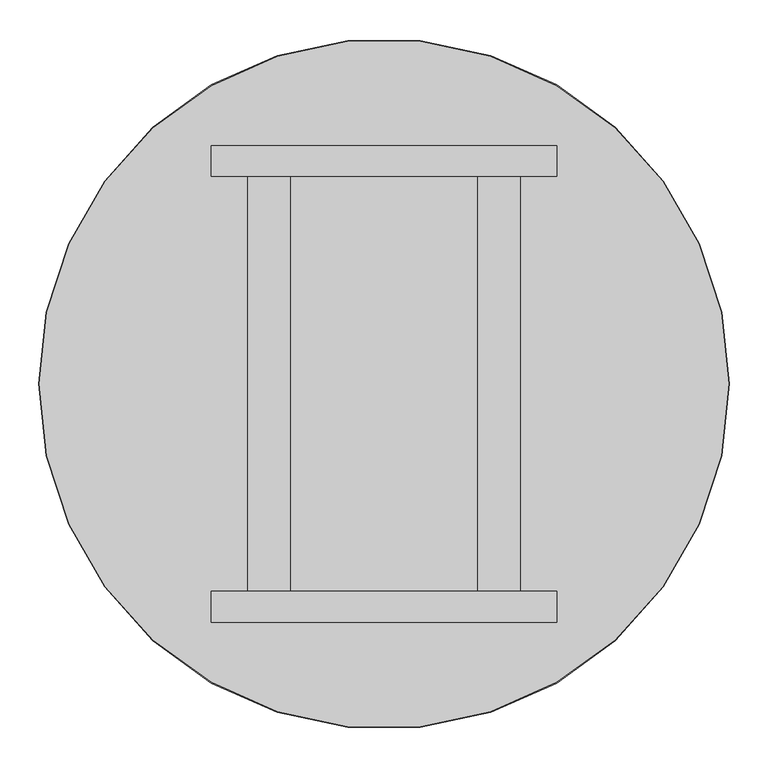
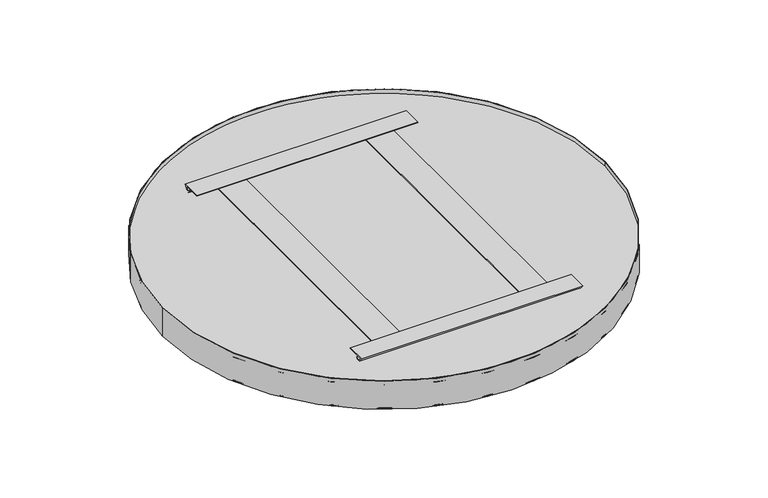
"""IFC4 building model written with IfcOpenShell, lengths in millimetres: proxy geometry, durlum_TOMEO-R-active : durlum_TOMEO-R-ACTIVE 900."""

from ifc_helpers import new_model, si_unit, point, frame, origin, origin_with_axes, origin_2d, place, context, project, spatial, polyline, circle_curve, trimmed, segment, composite_curve, outline, extrude, source, transform, mapped, element, save


def generic_models_197b3773(model_context):
    return source(origin(), model_context, "Body", "SweptSolid", [
        extrude(outline(polyline([(56.0, 176.3333333), (56.0, 121.3333333), (54.0, 121.3333333), (54.0, 147.8333333), (3.0, 147.8333333), (3.0, 121.3333333), (1.0, 121.3333333), (1.0, 176.3333333), (3.0, 176.3333333), (3.0, 149.8333333), (54.0, 149.8333333), (54.0, 176.3333333), (56.0, 176.3333333)])), frame((0.0, -297.6666667, 0.0), z_axis=(0.0, 1.0, 0.0), x_axis=(0.0, 0.0, 1.0)), (0.0, 0.0, 1.0), 595.3333333),
        extrude(outline(polyline([(308.2973023, 60.0), (298.3726306, 48.0), (297.1040606, 48.0), (290.6509118, 53.6332485), (291.6072389, 54.7895514), (297.6666667, 49.5), (305.1101704, 58.5), (268.2973023, 58.5), (268.2973023, 60.0), (308.2973023, 60.0)])), frame((-223.25, 0.0, 0.0), z_axis=(1.0, 0.0, 0.0), x_axis=(0.0, 1.0, 0.0)), (0.0, 0.0, 1.0), 446.5),
        extrude(outline(polyline([(-308.2973023, 60.0), (-268.2973023, 60.0), (-268.2973023, 58.5), (-305.1101704, 58.5), (-297.6666667, 49.5), (-291.6072389, 54.7895514), (-290.6509118, 53.6332485), (-297.1040606, 48.0), (-298.3726306, 48.0), (-308.2973023, 60.0)])), frame((-223.25, 0.0, 0.0), z_axis=(1.0, 0.0, 0.0), x_axis=(0.0, 1.0, 0.0)), (0.0, 0.0, 1.0), 446.5),
        extrude(outline(polyline([(56.0, -121.3333333), (56.0, -176.3333333), (54.0, -176.3333333), (54.0, -149.8333333), (3.0, -149.8333333), (3.0, -176.3333333), (1.0, -176.3333333), (1.0, -121.3333333), (3.0, -121.3333333), (3.0, -147.8333333), (54.0, -147.8333333), (54.0, -121.3333333), (56.0, -121.3333333)])), frame((0.0, -297.6666667, 0.0), z_axis=(0.0, 1.0, 0.0), x_axis=(0.0, 0.0, 1.0)), (0.0, 0.0, 1.0), 595.3333333),
        extrude(outline(composite_curve([segment(trimmed(circle_curve(origin_2d(), 445.5), [point((-445.5, 0.0))], [point((445.5, 0.0))], False, "CARTESIAN"), True, "CONTINUOUS"), segment(trimmed(circle_curve(origin_2d(), 445.5), [point((445.5, 0.0))], [point((-445.5, 0.0))], False, "CARTESIAN"), True, "CONTINUOUS")], self_intersect=False)), frame((0.0, 0.0, 1.0), z_axis=(0.0, 0.0, 1.0), x_axis=(1.0, 0.0, 0.0)), (0.0, 0.0, 1.0), 50.2547795),
        extrude(outline(composite_curve([segment(trimmed(circle_curve(origin_2d(), 445.5), [point((-445.5, 0.0))], [point((445.5, 0.0))], False, "CARTESIAN"), True, "CONTINUOUS"), segment(trimmed(circle_curve(origin_2d(), 445.5), [point((445.5, 0.0))], [point((-445.5, 0.0))], False, "CARTESIAN"), True, "CONTINUOUS")], self_intersect=False)), frame((0.0, 0.0, 1.0), z_axis=(0.0, 0.0, 1.0), x_axis=(1.0, 0.0, 0.0)), (0.0, 0.0, 1.0), 1.0),
        extrude(outline(composite_curve([segment(trimmed(circle_curve(origin_2d(), 445.0), [point((-445.0, 0.0))], [point((445.0, 0.0))], False, "CARTESIAN"), True, "CONTINUOUS"), segment(trimmed(circle_curve(origin_2d(), 445.0), [point((445.0, 0.0))], [point((-445.0, 0.0))], False, "CARTESIAN"), True, "CONTINUOUS")], self_intersect=False)), origin_with_axes(), (0.0, 0.0, 1.0), 1.0),
        extrude(outline(composite_curve([segment(trimmed(circle_curve(origin_2d(), 445.5), [point((-445.5, 0.0))], [point((445.5, 0.0))], False, "CARTESIAN"), True, "CONTINUOUS"), segment(trimmed(circle_curve(origin_2d(), 445.5), [point((445.5, 0.0))], [point((-445.5, 0.0))], False, "CARTESIAN"), True, "CONTINUOUS")], self_intersect=False), holes=[composite_curve([segment(trimmed(circle_curve(origin_2d(), 445.0), [point((-445.0, 0.0))], [point((445.0, 0.0))], True, "CARTESIAN"), True, "CONTINUOUS"), segment(trimmed(circle_curve(origin_2d(), 445.0), [point((445.0, 0.0))], [point((-445.0, 0.0))], True, "CARTESIAN"), True, "CONTINUOUS")], self_intersect=False)]), origin_with_axes(), (0.0, 0.0, 1.0), 1.0),
        extrude(outline(composite_curve([segment(trimmed(circle_curve(origin_2d(), 446.5), [point((-446.5, 0.0))], [point((446.5, 0.0))], False, "CARTESIAN"), True, "CONTINUOUS"), segment(trimmed(circle_curve(origin_2d(), 446.5), [point((446.5, 0.0))], [point((-446.5, 0.0))], False, "CARTESIAN"), True, "CONTINUOUS")], self_intersect=False), holes=[composite_curve([segment(trimmed(circle_curve(origin_2d(), 445.5), [point((-445.5, 0.0))], [point((445.5, 0.0))], True, "CARTESIAN"), True, "CONTINUOUS"), segment(trimmed(circle_curve(origin_2d(), 445.5), [point((445.5, 0.0))], [point((-445.5, 0.0))], True, "CARTESIAN"), True, "CONTINUOUS")], self_intersect=False)]), origin_with_axes(), (0.0, 0.0, 1.0), 60.0),
    ])


if __name__ == "__main__":
    model = new_model("IFC4")
    model_context = context("Model", 3, world=origin())
    ifc_project = project(units=[si_unit("LENGTHUNIT", "METRE", prefix="MILLI")], contexts=[model_context])
    site = spatial("IfcSite", under=ifc_project)
    building = spatial("IfcBuilding", under=site)
    placement = place(None, origin())
    generic_models_shape = generic_models_197b3773(model_context)
    element("IfcBuildingElementProxy", 1, Name="durlum_TOMEO-R-active : durlum_TOMEO-R-ACTIVE 900", ObjectType="durlum_TOMEO-R-active : durlum_TOMEO-R-ACTIVE 900", at=placement, inside=building, context=model_context, shape_type="MappedRepresentation", body=[
        mapped(generic_models_shape, transform((0.0, 0.0, 0.0), x_axis=(1.0, 0.0, 0.0), y_axis=(0.0, 1.0, 0.0), z_axis=(0.0, 0.0, 1.0))),
    ])
    save(model, "model.ifc")
